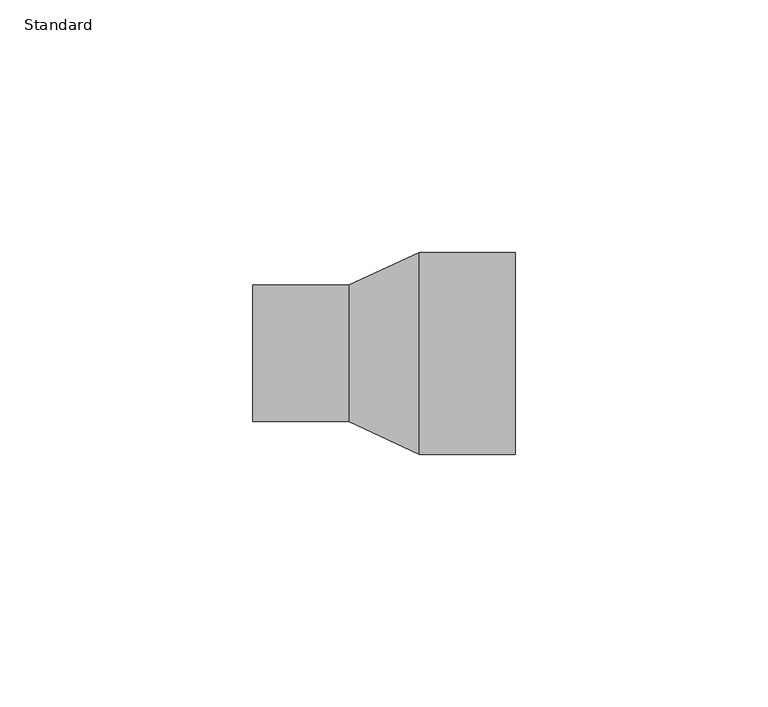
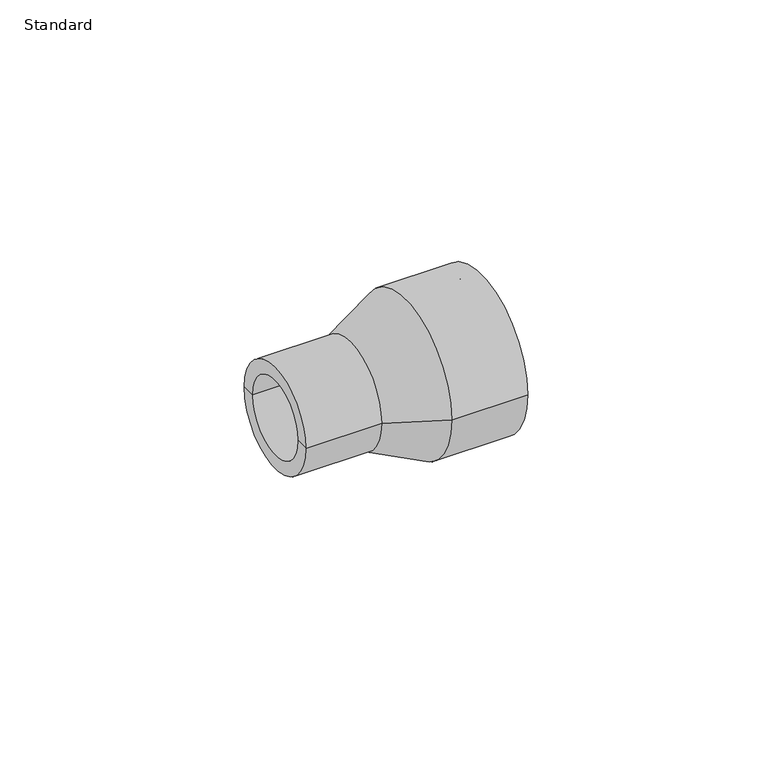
"""IFC4 building model written with IfcOpenShell, lengths in millimetres: pipe fitting geometry, Durapipe_PipeFitting_PVC_Reducers : Standard."""

from ifc_helpers import new_model, si_unit, frame, origin, place, context, project, spatial, polyline, circle_curve, source, transform, mapped, element, save
from ifc_brep_helpers import plane_surface, cylinder_surface, revolved_surface, advanced_brep


def standard_93e3d5d7(model_context):
    return source(origin(), model_context, "Body", "AdvancedBrep", [
        advanced_brep(
        [(-26.0, -13.5, 0.0), (-26.0, 13.5, 0.0), (-7.0, 13.5, 0.0), (-7.0, -13.5, 0.0), (-26.0, -10.0, 0.0), (-26.0, 10.0, 0.0), (26.0, -20.0, 0.0), (26.0, 20.0, 0.0), (26.0, 16.0, 0.0), (26.0, -16.0, 0.0), (7.0, -20.0, 0.0), (7.0, 20.0, 0.0), (-7.0, -10.0, 0.0), (-7.0, 10.0, 0.0), (-7.0, 0.0, 0.0), (7.0, -16.0, 0.0), (7.0, 16.0, 0.0), (7.0, 0.0, 0.0)],
        [
            (0, 1, circle_curve(frame((-26.0, 0.0, 0.0), z_axis=(1.0, 0.0, 0.0), x_axis=(0.0, 1.0, 0.0)), 13.5)),
            (1, 2),
            (2, 3, circle_curve(frame((-7.0, 0.0, 0.0), z_axis=(-1.0, 0.0, 0.0), x_axis=(0.0, 1.0, 0.0)), 13.5)),
            (3, 0),
            (1, 0, circle_curve(frame((-26.0, 0.0, 0.0), z_axis=(1.0, 0.0, 0.0), x_axis=(0.0, 1.0, 0.0)), 13.5)),
            (3, 2, circle_curve(frame((-7.0, 0.0, 0.0), z_axis=(-1.0, 0.0, 0.0), x_axis=(0.0, 1.0, 0.0)), 13.5)),
            (4, 5, circle_curve(frame((-26.0, 0.0, 0.0), z_axis=(1.0, 0.0, 0.0), x_axis=(0.0, 1.0, 0.0)), 10.0)),
            (5, 1),
            (0, 4),
            (5, 4, circle_curve(frame((-26.0, 0.0, 0.0), z_axis=(1.0, 0.0, 0.0), x_axis=(0.0, 1.0, 0.0)), 10.0)),
            (6, 7, circle_curve(frame((26.0, 0.0, 0.0), z_axis=(1.0, 0.0, 0.0), x_axis=(0.0, 1.0, 0.0)), 20.0)),
            (7, 8),
            (8, 9, circle_curve(frame((26.0, 0.0, 0.0), z_axis=(-1.0, 0.0, 0.0), x_axis=(0.0, 1.0, 0.0)), 16.0)),
            (9, 6),
            (7, 6, circle_curve(frame((26.0, 0.0, 0.0), z_axis=(1.0, 0.0, 0.0), x_axis=(0.0, 1.0, 0.0)), 20.0)),
            (9, 8, circle_curve(frame((26.0, 0.0, 0.0), z_axis=(-1.0, 0.0, 0.0), x_axis=(0.0, 1.0, 0.0)), 16.0)),
            (10, 11, circle_curve(frame((7.0, 0.0, 0.0), z_axis=(1.0, 0.0, 0.0), x_axis=(0.0, 1.0, 0.0)), 20.0)),
            (11, 7),
            (6, 10),
            (11, 10, circle_curve(frame((7.0, 0.0, 0.0), z_axis=(1.0, 0.0, 0.0), x_axis=(0.0, 1.0, 0.0)), 20.0)),
            (2, 11),
            (10, 3),
            (12, 13, circle_curve(frame((-7.0, 0.0, 0.0), z_axis=(1.0, 0.0, 0.0), x_axis=(0.0, 1.0, 0.0)), 10.0)),
            (13, 5),
            (4, 12),
            (13, 12, circle_curve(frame((-7.0, 0.0, 0.0), z_axis=(1.0, 0.0, 0.0), x_axis=(0.0, 1.0, 0.0)), 10.0)),
            (14, 13),
            (12, 14),
            (15, 16, circle_curve(frame((7.0, 0.0, 0.0), z_axis=(1.0, 0.0, 0.0), x_axis=(0.0, 1.0, 0.0)), 16.0)),
            (16, 17),
            (17, 15),
            (16, 15, circle_curve(frame((7.0, 0.0, 0.0), z_axis=(1.0, 0.0, 0.0), x_axis=(0.0, 1.0, 0.0)), 16.0)),
            (8, 16),
            (15, 9),
        ],
        [
            cylinder_surface(frame((-26.0, 0.0, 0.0), z_axis=(-1.0, 0.0, 0.0), x_axis=(0.0, 1.0, 0.0)), 13.5),
            plane_surface(frame((-26.0, 0.0, 0.0), z_axis=(-1.0, 0.0, 0.0), x_axis=(0.0, 1.0, 0.0))),
            plane_surface(frame((26.0, 0.0, 0.0), z_axis=(1.0, 0.0, 0.0), x_axis=(0.0, 1.0, 0.0))),
            cylinder_surface(frame((-26.0, 0.0, 0.0), z_axis=(-1.0, 0.0, 0.0), x_axis=(0.0, 1.0, 0.0)), 20.0),
            revolved_surface(polyline([(7.0, 20.0, 0.0), (-7.0, 13.5, 0.0)]), (-26.0, 0.0, 0.0), (-1.0, 0.0, 0.0)),
            revolved_surface(polyline([(-26.0, 10.0, 0.0), (-7.0, 10.0, 0.0)]), (-26.0, 0.0, 0.0), (-1.0, 0.0, 0.0)),
            plane_surface(frame((-7.0, 0.0, 0.0), z_axis=(-1.0, 0.0, 0.0), x_axis=(0.0, 1.0, 0.0))),
            plane_surface(frame((7.0, 0.0, 0.0), z_axis=(1.0, 0.0, 0.0), x_axis=(0.0, 1.0, 0.0))),
            revolved_surface(polyline([(7.0, 16.0, 0.0), (26.0, 16.0, 0.0)]), (-26.0, 0.0, 0.0), (-1.0, 0.0, 0.0)),
        ],
        [
            (0, [[1, 2, 3, 4]]),
            (0, [[5, -4, 6, -2]]),
            (1, [[7, 8, -1, 9]]),
            (1, [[10, -9, -5, -8]]),
            (2, [[11, 12, 13, 14]]),
            (2, [[15, -14, 16, -12]]),
            (3, [[17, 18, -11, 19]]),
            (3, [[20, -19, -15, -18]]),
            (4, [[-3, 21, -17, 22]]),
            (4, [[-6, -22, -20, -21]]),
            (5, [[23, 24, -7, 25]]),
            (5, [[26, -25, -10, -24]]),
            (6, [[27, -23, 28]]),
            (6, [[-28, -26, -27]]),
            (7, [[29, 30, 31]]),
            (7, [[32, -31, -30]]),
            (8, [[-13, 33, -29, 34]]),
            (8, [[-16, -34, -32, -33]]),
        ],
    ),
    ])


if __name__ == "__main__":
    model = new_model("IFC4")
    model_context = context("Model", 3, world=origin())
    ifc_project = project(units=[si_unit("LENGTHUNIT", "METRE", prefix="MILLI")], contexts=[model_context])
    site = spatial("IfcSite", under=ifc_project)
    building = spatial("IfcBuilding", under=site)
    placement = place(None, origin())
    standard_shape = standard_93e3d5d7(model_context)
    element("IfcPipeFitting", 1, ObjectType="Durapipe_PipeFitting_PVC_Reducers : Standard", at=placement, inside=building, context=model_context, shape_type="MappedRepresentation", body=[
        mapped(standard_shape, transform((0.0, 0.0, 0.0), x_axis=(1.0, 0.0, 0.0), y_axis=(0.0, 1.0, 0.0), z_axis=(0.0, 0.0, 1.0))),
    ])
    save(model, "model.ifc")
